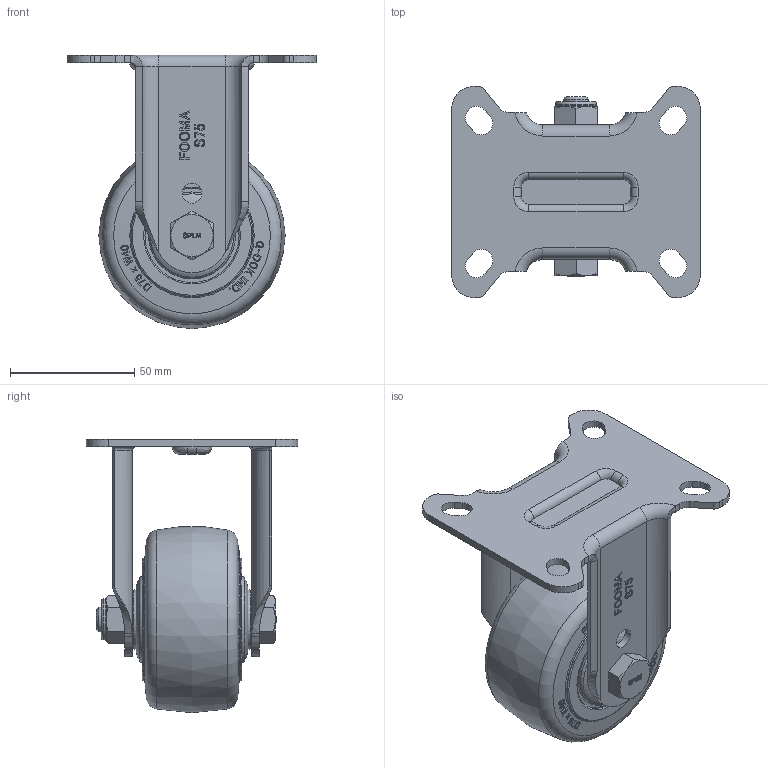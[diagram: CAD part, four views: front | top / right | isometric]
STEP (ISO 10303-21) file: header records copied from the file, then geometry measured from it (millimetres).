
FILE_DESCRIPTION(/* description */ (''),/* implementation_level */ '2;1');
FILE_NAME(/* name */ '\\192.168.10.38\지덕공유\1.기술연구소\2.연구개발 진행중\98.스테인레스캐스터 개발건_2023.10.26\제품설계\3D\홈페이지용\STP\SPLM-75-ARF-HRD-PEU.stp',/* time_stamp */ '2025-02-18T14:56:18+09:00',/* author */ ('admin'),/* organization */ ('지덕산업'),/* preprocessor_version */ 'ST-DEVELOPER v18.1',/* originating_system */ 'Autodesk Inventor 2021',/* authorisation */ '');
FILE_SCHEMA (('CONFIG_CONTROL_DESIGN'));
Length unit declared in the file: millimetre
Products named in the file (1): SPLM-75-ARF-HRD-PEU
Bounding box: 100 x 85 x 110 mm (x, y, z)
Volume: 210723.4 mm3; surface area: 45773.2 mm2
Topology: 1 solids, 1 shells, 856 faces, 2306 edges, 1521 vertices
Faces by surface type: plane 388, bspline 328, cone 65, cylinder 47, torus 28
Full cylindrical faces by diameter (mm): 8 x2, 10 x1, 11 x1, 16.5 x1
Entity records: 29549 total; most frequent: CARTESIAN_POINT 11361, ORIENTED_EDGE 4612, DIRECTION 2492, EDGE_CURVE 2306, VERTEX_POINT 1521, LINE 1026, VECTOR 1026, EDGE_LOOP 939
